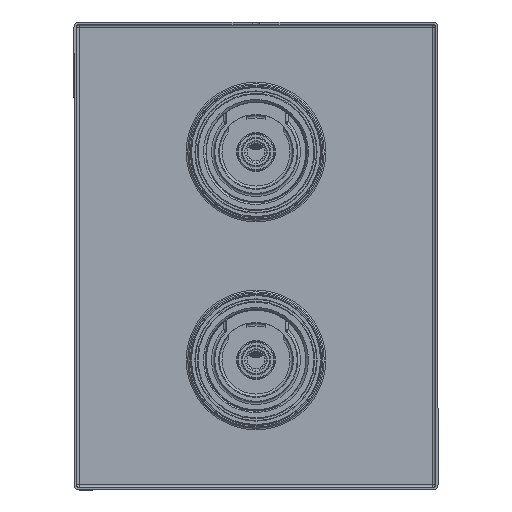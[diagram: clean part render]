
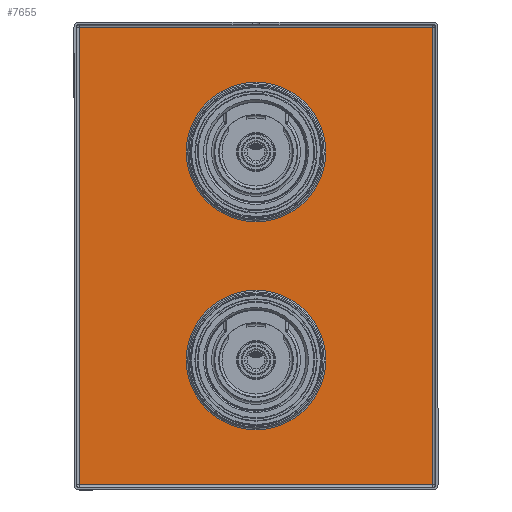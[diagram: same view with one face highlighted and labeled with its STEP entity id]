
A CAD part, left-side view. The second image highlights one B-rep face of the part: STEP entity #7655.
In plain terms, the highlighted planar face has unit normal (-1, 0, 0) as drawn and (0, -1, 0) by its records, which use the part's own axes.
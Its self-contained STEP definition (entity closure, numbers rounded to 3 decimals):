
#623=FACE_BOUND('',#1538,.T.);
#624=FACE_BOUND('',#1539,.T.);
#736=CIRCLE('',#8171,26.85);
#737=CIRCLE('',#8173,26.85);
#1032=FACE_OUTER_BOUND('',#1537,.T.);
#1537=EDGE_LOOP('',(#5303,#5304,#5305,#5306));
#1538=EDGE_LOOP('',(#5307));
#1539=EDGE_LOOP('',(#5308));
#2182=LINE('',#11006,#2789);
#2183=LINE('',#11008,#2790);
#2184=LINE('',#11010,#2791);
#2185=LINE('',#11011,#2792);
#2789=VECTOR('',#9002,136.);
#2790=VECTOR('',#9003,176.);
#2791=VECTOR('',#9004,136.);
#2792=VECTOR('',#9005,176.);
#3379=VERTEX_POINT('',#11001);
#3380=VERTEX_POINT('',#11004);
#3381=VERTEX_POINT('',#11005);
#3382=VERTEX_POINT('',#11007);
#3383=VERTEX_POINT('',#11009);
#3384=VERTEX_POINT('',#11012);
#4129=EDGE_CURVE('',#3379,#3379,#736,.T.);
#4130=EDGE_CURVE('',#3380,#3381,#2182,.T.);
#4131=EDGE_CURVE('',#3381,#3382,#2183,.T.);
#4132=EDGE_CURVE('',#3382,#3383,#2184,.T.);
#4133=EDGE_CURVE('',#3383,#3380,#2185,.T.);
#4134=EDGE_CURVE('',#3384,#3384,#737,.T.);
#5303=ORIENTED_EDGE('',*,*,#4130,.T.);
#5304=ORIENTED_EDGE('',*,*,#4131,.T.);
#5305=ORIENTED_EDGE('',*,*,#4132,.T.);
#5306=ORIENTED_EDGE('',*,*,#4133,.T.);
#5307=ORIENTED_EDGE('',*,*,#4134,.T.);
#5308=ORIENTED_EDGE('',*,*,#4129,.T.);
#7414=PLANE('',#8172);
#7655=ADVANCED_FACE('',(#1032,#623,#624),#7414,.F.);
#8171=AXIS2_PLACEMENT_3D('',#11002,#8998,#8999);
#8172=AXIS2_PLACEMENT_3D('',#11003,#9000,#9001);
#8173=AXIS2_PLACEMENT_3D('',#11013,#9006,#9007);
#8998=DIRECTION('center_axis',(0.,1.,0.));
#8999=DIRECTION('ref_axis',(1.,0.,0.));
#9000=DIRECTION('center_axis',(0.,1.,0.));
#9001=DIRECTION('ref_axis',(0.,0.,1.));
#9002=DIRECTION('',(1.,0.,0.));
#9003=DIRECTION('',(0.,0.,1.));
#9004=DIRECTION('',(-1.,0.,0.));
#9005=DIRECTION('',(0.,0.,-1.));
#9006=DIRECTION('center_axis',(0.,1.,0.));
#9007=DIRECTION('ref_axis',(1.,0.,0.));
#11001=CARTESIAN_POINT('',(-26.85,11.,40.));
#11002=CARTESIAN_POINT('Origin',(0.,11.,40.));
#11003=CARTESIAN_POINT('Origin',(-70.,11.,0.));
#11004=CARTESIAN_POINT('',(-68.,11.,-88.));
#11005=CARTESIAN_POINT('',(68.,11.,-88.));
#11006=CARTESIAN_POINT('',(-35.,11.,-88.));
#11007=CARTESIAN_POINT('',(68.,11.,88.));
#11008=CARTESIAN_POINT('',(68.,11.,0.));
#11009=CARTESIAN_POINT('',(-68.,11.,88.));
#11010=CARTESIAN_POINT('',(-35.,11.,88.));
#11011=CARTESIAN_POINT('',(-68.,11.,0.));
#11012=CARTESIAN_POINT('',(-26.85,11.,-40.));
#11013=CARTESIAN_POINT('Origin',(0.,11.,-40.));
